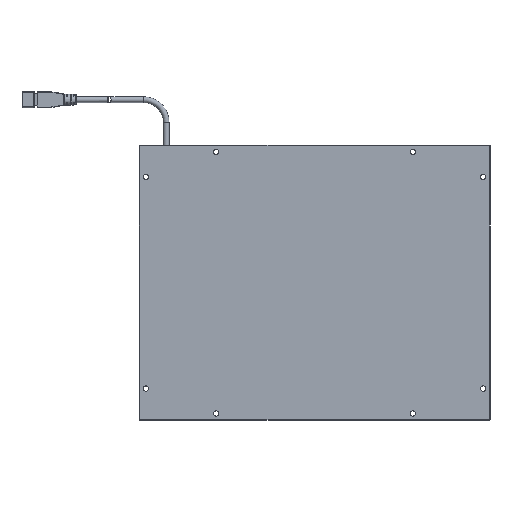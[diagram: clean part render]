
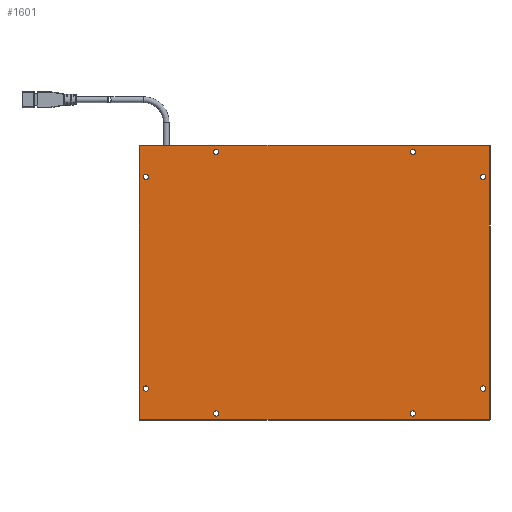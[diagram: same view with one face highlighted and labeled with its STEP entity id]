
A CAD part, front view. The second image highlights one B-rep face of the part: STEP entity #1601.
In plain terms, the highlighted planar face has unit normal (0, -1, 0).
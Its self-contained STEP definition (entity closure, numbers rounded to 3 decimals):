
#1=DIRECTION('',(0.,0.,-1.));
#2=VECTOR('',#1,181.);
#3=CARTESIAN_POINT('',(115.5,0.,90.5));
#4=LINE('',#3,#2);
#5=DIRECTION('',(-1.,0.,0.));
#6=VECTOR('',#5,231.);
#7=CARTESIAN_POINT('',(115.5,0.,-90.5));
#8=LINE('',#7,#6);
#9=DIRECTION('',(0.,0.,1.));
#10=VECTOR('',#9,181.);
#11=CARTESIAN_POINT('',(-115.5,0.,-90.5));
#12=LINE('',#11,#10);
#13=DIRECTION('',(1.,0.,0.));
#14=VECTOR('',#13,231.);
#15=CARTESIAN_POINT('',(-115.5,0.,90.5));
#16=LINE('',#15,#14);
#17=CARTESIAN_POINT('',(111.5,0.,-70.));
#18=DIRECTION('',(0.,-1.,0.));
#19=DIRECTION('',(-1.,0.,0.));
#20=AXIS2_PLACEMENT_3D('',#17,#18,#19);
#22=CARTESIAN_POINT('',(111.5,0.,-70.));
#23=DIRECTION('',(0.,-1.,0.));
#24=DIRECTION('',(1.,0.,0.));
#25=AXIS2_PLACEMENT_3D('',#22,#23,#24);
#27=CARTESIAN_POINT('',(111.5,0.,70.));
#28=DIRECTION('',(0.,-1.,0.));
#29=DIRECTION('',(-1.,0.,0.));
#30=AXIS2_PLACEMENT_3D('',#27,#28,#29);
#32=CARTESIAN_POINT('',(111.5,0.,70.));
#33=DIRECTION('',(0.,-1.,0.));
#34=DIRECTION('',(1.,0.,0.));
#35=AXIS2_PLACEMENT_3D('',#32,#33,#34);
#37=CARTESIAN_POINT('',(-111.5,0.,-70.));
#38=DIRECTION('',(0.,-1.,0.));
#39=DIRECTION('',(-1.,0.,0.));
#40=AXIS2_PLACEMENT_3D('',#37,#38,#39);
#42=CARTESIAN_POINT('',(-111.5,0.,-70.));
#43=DIRECTION('',(0.,-1.,0.));
#44=DIRECTION('',(1.,0.,0.));
#45=AXIS2_PLACEMENT_3D('',#42,#43,#44);
#47=CARTESIAN_POINT('',(-111.5,0.,70.));
#48=DIRECTION('',(0.,-1.,0.));
#49=DIRECTION('',(-1.,0.,0.));
#50=AXIS2_PLACEMENT_3D('',#47,#48,#49);
#52=CARTESIAN_POINT('',(-111.5,0.,70.));
#53=DIRECTION('',(0.,-1.,0.));
#54=DIRECTION('',(1.,0.,0.));
#55=AXIS2_PLACEMENT_3D('',#52,#53,#54);
#57=CARTESIAN_POINT('',(65.,0.,-86.5));
#58=DIRECTION('',(0.,-1.,0.));
#59=DIRECTION('',(-1.,0.,0.));
#60=AXIS2_PLACEMENT_3D('',#57,#58,#59);
#62=CARTESIAN_POINT('',(65.,0.,-86.5));
#63=DIRECTION('',(0.,-1.,0.));
#64=DIRECTION('',(1.,0.,0.));
#65=AXIS2_PLACEMENT_3D('',#62,#63,#64);
#67=CARTESIAN_POINT('',(-65.,0.,-86.5));
#68=DIRECTION('',(0.,-1.,0.));
#69=DIRECTION('',(-1.,0.,0.));
#70=AXIS2_PLACEMENT_3D('',#67,#68,#69);
#72=CARTESIAN_POINT('',(-65.,0.,-86.5));
#73=DIRECTION('',(0.,-1.,0.));
#74=DIRECTION('',(1.,0.,0.));
#75=AXIS2_PLACEMENT_3D('',#72,#73,#74);
#77=CARTESIAN_POINT('',(65.,0.,86.5));
#78=DIRECTION('',(0.,-1.,0.));
#79=DIRECTION('',(1.,0.,0.));
#80=AXIS2_PLACEMENT_3D('',#77,#78,#79);
#82=CARTESIAN_POINT('',(65.,0.,86.5));
#83=DIRECTION('',(0.,-1.,0.));
#84=DIRECTION('',(-1.,0.,0.));
#85=AXIS2_PLACEMENT_3D('',#82,#83,#84);
#87=CARTESIAN_POINT('',(-65.,0.,86.5));
#88=DIRECTION('',(0.,-1.,0.));
#89=DIRECTION('',(1.,0.,0.));
#90=AXIS2_PLACEMENT_3D('',#87,#88,#89);
#92=CARTESIAN_POINT('',(-65.,0.,86.5));
#93=DIRECTION('',(0.,-1.,0.));
#94=DIRECTION('',(-1.,0.,0.));
#95=AXIS2_PLACEMENT_3D('',#92,#93,#94);
#1190=CARTESIAN_POINT('',(115.5,0.,90.5));
#1191=CARTESIAN_POINT('',(115.5,0.,-90.5));
#1192=VERTEX_POINT('',#1190);
#1193=VERTEX_POINT('',#1191);
#1194=CARTESIAN_POINT('',(-115.5,0.,-90.5));
#1195=VERTEX_POINT('',#1194);
#1196=CARTESIAN_POINT('',(-115.5,0.,90.5));
#1197=VERTEX_POINT('',#1196);
#1198=CARTESIAN_POINT('',(109.75,0.,-70.));
#1199=CARTESIAN_POINT('',(113.25,0.,-70.));
#1200=VERTEX_POINT('',#1198);
#1201=VERTEX_POINT('',#1199);
#1202=CARTESIAN_POINT('',(109.75,0.,70.));
#1203=CARTESIAN_POINT('',(113.25,0.,70.));
#1204=VERTEX_POINT('',#1202);
#1205=VERTEX_POINT('',#1203);
#1206=CARTESIAN_POINT('',(-113.25,0.,-70.));
#1207=CARTESIAN_POINT('',(-109.75,0.,-70.));
#1208=VERTEX_POINT('',#1206);
#1209=VERTEX_POINT('',#1207);
#1210=CARTESIAN_POINT('',(-113.25,0.,70.));
#1211=CARTESIAN_POINT('',(-109.75,0.,70.));
#1212=VERTEX_POINT('',#1210);
#1213=VERTEX_POINT('',#1211);
#1214=CARTESIAN_POINT('',(63.25,0.,-86.5));
#1215=CARTESIAN_POINT('',(66.75,0.,-86.5));
#1216=VERTEX_POINT('',#1214);
#1217=VERTEX_POINT('',#1215);
#1218=CARTESIAN_POINT('',(-66.75,0.,-86.5));
#1219=CARTESIAN_POINT('',(-63.25,0.,-86.5));
#1220=VERTEX_POINT('',#1218);
#1221=VERTEX_POINT('',#1219);
#1222=CARTESIAN_POINT('',(66.75,0.,86.5));
#1223=CARTESIAN_POINT('',(63.25,0.,86.5));
#1224=VERTEX_POINT('',#1222);
#1225=VERTEX_POINT('',#1223);
#1226=CARTESIAN_POINT('',(-63.25,0.,86.5));
#1227=CARTESIAN_POINT('',(-66.75,0.,86.5));
#1228=VERTEX_POINT('',#1226);
#1229=VERTEX_POINT('',#1227);
#1538=CARTESIAN_POINT('',(0.,0.,0.));
#1539=DIRECTION('',(0.,1.,0.));
#1540=DIRECTION('',(1.,0.,0.));
#1541=AXIS2_PLACEMENT_3D('',#1538,#1539,#1540);
#1542=PLANE('',#1541);
#1544=ORIENTED_EDGE('',*,*,#1543,.T.);
#1546=ORIENTED_EDGE('',*,*,#1545,.T.);
#1548=ORIENTED_EDGE('',*,*,#1547,.T.);
#1550=ORIENTED_EDGE('',*,*,#1549,.T.);
#1551=EDGE_LOOP('',(#1544,#1546,#1548,#1550));
#1552=FACE_OUTER_BOUND('',#1551,.F.);
#1554=ORIENTED_EDGE('',*,*,#1553,.T.);
#1556=ORIENTED_EDGE('',*,*,#1555,.T.);
#1557=EDGE_LOOP('',(#1554,#1556));
#1558=FACE_BOUND('',#1557,.F.);
#1560=ORIENTED_EDGE('',*,*,#1559,.T.);
#1562=ORIENTED_EDGE('',*,*,#1561,.T.);
#1563=EDGE_LOOP('',(#1560,#1562));
#1564=FACE_BOUND('',#1563,.F.);
#1566=ORIENTED_EDGE('',*,*,#1565,.T.);
#1568=ORIENTED_EDGE('',*,*,#1567,.T.);
#1569=EDGE_LOOP('',(#1566,#1568));
#1570=FACE_BOUND('',#1569,.F.);
#1572=ORIENTED_EDGE('',*,*,#1571,.T.);
#1574=ORIENTED_EDGE('',*,*,#1573,.T.);
#1575=EDGE_LOOP('',(#1572,#1574));
#1576=FACE_BOUND('',#1575,.F.);
#1578=ORIENTED_EDGE('',*,*,#1577,.T.);
#1580=ORIENTED_EDGE('',*,*,#1579,.T.);
#1581=EDGE_LOOP('',(#1578,#1580));
#1582=FACE_BOUND('',#1581,.F.);
#1584=ORIENTED_EDGE('',*,*,#1583,.T.);
#1586=ORIENTED_EDGE('',*,*,#1585,.T.);
#1587=EDGE_LOOP('',(#1584,#1586));
#1588=FACE_BOUND('',#1587,.F.);
#1590=ORIENTED_EDGE('',*,*,#1589,.T.);
#1592=ORIENTED_EDGE('',*,*,#1591,.T.);
#1593=EDGE_LOOP('',(#1590,#1592));
#1594=FACE_BOUND('',#1593,.F.);
#1596=ORIENTED_EDGE('',*,*,#1595,.T.);
#1598=ORIENTED_EDGE('',*,*,#1597,.T.);
#1599=EDGE_LOOP('',(#1596,#1598));
#1600=FACE_BOUND('',#1599,.F.);
#21=CIRCLE('',#20,1.75);
#26=CIRCLE('',#25,1.75);
#31=CIRCLE('',#30,1.75);
#36=CIRCLE('',#35,1.75);
#41=CIRCLE('',#40,1.75);
#46=CIRCLE('',#45,1.75);
#51=CIRCLE('',#50,1.75);
#56=CIRCLE('',#55,1.75);
#61=CIRCLE('',#60,1.75);
#66=CIRCLE('',#65,1.75);
#71=CIRCLE('',#70,1.75);
#76=CIRCLE('',#75,1.75);
#81=CIRCLE('',#80,1.75);
#86=CIRCLE('',#85,1.75);
#91=CIRCLE('',#90,1.75);
#96=CIRCLE('',#95,1.75);
#1543=EDGE_CURVE('',#1192,#1193,#4,.T.);
#1545=EDGE_CURVE('',#1193,#1195,#8,.T.);
#1547=EDGE_CURVE('',#1195,#1197,#12,.T.);
#1549=EDGE_CURVE('',#1197,#1192,#16,.T.);
#1553=EDGE_CURVE('',#1200,#1201,#21,.T.);
#1555=EDGE_CURVE('',#1201,#1200,#26,.T.);
#1559=EDGE_CURVE('',#1204,#1205,#31,.T.);
#1561=EDGE_CURVE('',#1205,#1204,#36,.T.);
#1565=EDGE_CURVE('',#1208,#1209,#41,.T.);
#1567=EDGE_CURVE('',#1209,#1208,#46,.T.);
#1571=EDGE_CURVE('',#1212,#1213,#51,.T.);
#1573=EDGE_CURVE('',#1213,#1212,#56,.T.);
#1577=EDGE_CURVE('',#1216,#1217,#61,.T.);
#1579=EDGE_CURVE('',#1217,#1216,#66,.T.);
#1583=EDGE_CURVE('',#1220,#1221,#71,.T.);
#1585=EDGE_CURVE('',#1221,#1220,#76,.T.);
#1589=EDGE_CURVE('',#1224,#1225,#81,.T.);
#1591=EDGE_CURVE('',#1225,#1224,#86,.T.);
#1595=EDGE_CURVE('',#1228,#1229,#91,.T.);
#1597=EDGE_CURVE('',#1229,#1228,#96,.T.);
#1601=ADVANCED_FACE('',(#1552,#1558,#1564,#1570,#1576,#1582,#1588,#1594,#1600),
#1542,.F.);
